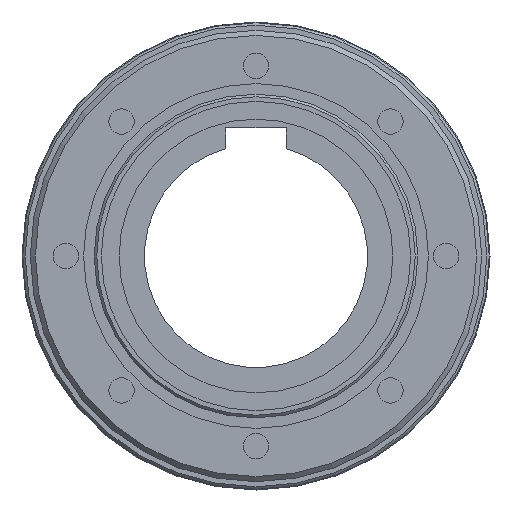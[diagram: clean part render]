
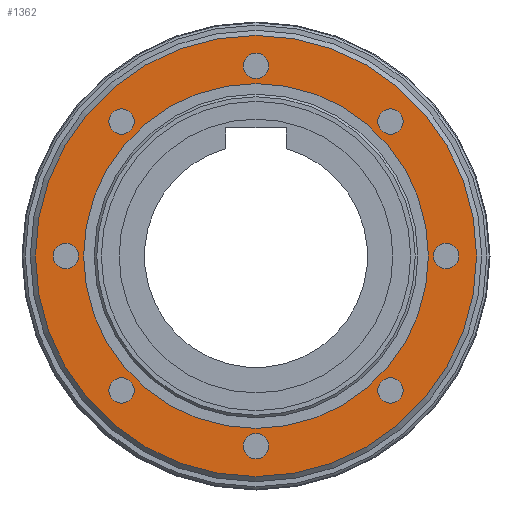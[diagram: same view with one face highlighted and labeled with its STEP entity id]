
A CAD part, left-side view. The second image highlights one B-rep face of the part: STEP entity #1362.
In plain terms, the highlighted planar face has unit normal (-1, 0, 0).
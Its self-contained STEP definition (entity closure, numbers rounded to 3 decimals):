
#24=FACE_BOUND('',#388,.T.);
#25=FACE_BOUND('',#389,.T.);
#26=FACE_BOUND('',#390,.T.);
#27=FACE_BOUND('',#391,.T.);
#28=FACE_BOUND('',#392,.T.);
#29=FACE_BOUND('',#393,.T.);
#30=FACE_BOUND('',#394,.T.);
#31=FACE_BOUND('',#395,.T.);
#32=FACE_BOUND('',#396,.T.);
#226=PLANE('',#1581);
#302=FACE_OUTER_BOUND('',#387,.T.);
#387=EDGE_LOOP('',(#1192,#1193));
#388=EDGE_LOOP('',(#1194,#1195));
#389=EDGE_LOOP('',(#1196,#1197));
#390=EDGE_LOOP('',(#1198,#1199));
#391=EDGE_LOOP('',(#1200,#1201));
#392=EDGE_LOOP('',(#1202,#1203));
#393=EDGE_LOOP('',(#1204,#1205));
#394=EDGE_LOOP('',(#1206,#1207));
#395=EDGE_LOOP('',(#1208,#1209));
#396=EDGE_LOOP('',(#1210,#1211));
#446=CIRCLE('',#1423,2.5);
#449=CIRCLE('',#1426,2.5);
#450=CIRCLE('',#1428,2.5);
#453=CIRCLE('',#1431,2.5);
#454=CIRCLE('',#1433,2.5);
#457=CIRCLE('',#1436,2.5);
#458=CIRCLE('',#1438,2.5);
#461=CIRCLE('',#1441,2.5);
#462=CIRCLE('',#1443,2.5);
#465=CIRCLE('',#1446,2.5);
#466=CIRCLE('',#1448,2.5);
#469=CIRCLE('',#1451,2.5);
#470=CIRCLE('',#1453,2.5);
#473=CIRCLE('',#1456,2.5);
#474=CIRCLE('',#1458,2.5);
#477=CIRCLE('',#1461,2.5);
#511=CIRCLE('',#1506,34.);
#514=CIRCLE('',#1509,34.);
#516=CIRCLE('',#1512,43.5);
#517=CIRCLE('',#1513,43.5);
#576=VERTEX_POINT('',#2133);
#577=VERTEX_POINT('',#2134);
#580=VERTEX_POINT('',#2143);
#581=VERTEX_POINT('',#2144);
#584=VERTEX_POINT('',#2153);
#585=VERTEX_POINT('',#2154);
#588=VERTEX_POINT('',#2163);
#589=VERTEX_POINT('',#2164);
#592=VERTEX_POINT('',#2173);
#593=VERTEX_POINT('',#2174);
#596=VERTEX_POINT('',#2183);
#597=VERTEX_POINT('',#2184);
#600=VERTEX_POINT('',#2193);
#601=VERTEX_POINT('',#2194);
#604=VERTEX_POINT('',#2203);
#605=VERTEX_POINT('',#2204);
#644=VERTEX_POINT('',#2342);
#645=VERTEX_POINT('',#2343);
#650=VERTEX_POINT('',#2355);
#651=VERTEX_POINT('',#2357);
#731=EDGE_CURVE('',#576,#577,#446,.T.);
#735=EDGE_CURVE('',#577,#576,#449,.T.);
#736=EDGE_CURVE('',#580,#581,#450,.T.);
#740=EDGE_CURVE('',#581,#580,#453,.T.);
#741=EDGE_CURVE('',#584,#585,#454,.T.);
#745=EDGE_CURVE('',#585,#584,#457,.T.);
#746=EDGE_CURVE('',#588,#589,#458,.T.);
#750=EDGE_CURVE('',#589,#588,#461,.T.);
#751=EDGE_CURVE('',#592,#593,#462,.T.);
#755=EDGE_CURVE('',#593,#592,#465,.T.);
#756=EDGE_CURVE('',#596,#597,#466,.T.);
#760=EDGE_CURVE('',#597,#596,#469,.T.);
#761=EDGE_CURVE('',#600,#601,#470,.T.);
#765=EDGE_CURVE('',#601,#600,#473,.T.);
#766=EDGE_CURVE('',#604,#605,#474,.T.);
#770=EDGE_CURVE('',#605,#604,#477,.T.);
#816=EDGE_CURVE('',#644,#645,#511,.T.);
#820=EDGE_CURVE('',#645,#644,#514,.T.);
#823=EDGE_CURVE('',#651,#650,#516,.T.);
#824=EDGE_CURVE('',#650,#651,#517,.T.);
#1192=ORIENTED_EDGE('',*,*,#823,.T.);
#1193=ORIENTED_EDGE('',*,*,#824,.T.);
#1194=ORIENTED_EDGE('',*,*,#731,.F.);
#1195=ORIENTED_EDGE('',*,*,#735,.F.);
#1196=ORIENTED_EDGE('',*,*,#736,.F.);
#1197=ORIENTED_EDGE('',*,*,#740,.F.);
#1198=ORIENTED_EDGE('',*,*,#741,.F.);
#1199=ORIENTED_EDGE('',*,*,#745,.F.);
#1200=ORIENTED_EDGE('',*,*,#746,.F.);
#1201=ORIENTED_EDGE('',*,*,#750,.F.);
#1202=ORIENTED_EDGE('',*,*,#751,.F.);
#1203=ORIENTED_EDGE('',*,*,#755,.F.);
#1204=ORIENTED_EDGE('',*,*,#756,.F.);
#1205=ORIENTED_EDGE('',*,*,#760,.F.);
#1206=ORIENTED_EDGE('',*,*,#761,.F.);
#1207=ORIENTED_EDGE('',*,*,#765,.F.);
#1208=ORIENTED_EDGE('',*,*,#766,.F.);
#1209=ORIENTED_EDGE('',*,*,#770,.F.);
#1210=ORIENTED_EDGE('',*,*,#816,.F.);
#1211=ORIENTED_EDGE('',*,*,#820,.F.);
#1362=ADVANCED_FACE('',(#302,#24,#25,#26,#27,#28,#29,#30,#31,#32),#226,
 .F.);
#1423=AXIS2_PLACEMENT_3D('',#2135,#1649,#1650);
#1426=AXIS2_PLACEMENT_3D('',#2141,#1656,#1657);
#1428=AXIS2_PLACEMENT_3D('',#2145,#1660,#1661);
#1431=AXIS2_PLACEMENT_3D('',#2151,#1667,#1668);
#1433=AXIS2_PLACEMENT_3D('',#2155,#1671,#1672);
#1436=AXIS2_PLACEMENT_3D('',#2161,#1678,#1679);
#1438=AXIS2_PLACEMENT_3D('',#2165,#1682,#1683);
#1441=AXIS2_PLACEMENT_3D('',#2171,#1689,#1690);
#1443=AXIS2_PLACEMENT_3D('',#2175,#1693,#1694);
#1446=AXIS2_PLACEMENT_3D('',#2181,#1700,#1701);
#1448=AXIS2_PLACEMENT_3D('',#2185,#1704,#1705);
#1451=AXIS2_PLACEMENT_3D('',#2191,#1711,#1712);
#1453=AXIS2_PLACEMENT_3D('',#2195,#1715,#1716);
#1456=AXIS2_PLACEMENT_3D('',#2201,#1722,#1723);
#1458=AXIS2_PLACEMENT_3D('',#2205,#1726,#1727);
#1461=AXIS2_PLACEMENT_3D('',#2211,#1733,#1734);
#1506=AXIS2_PLACEMENT_3D('',#2344,#1833,#1834);
#1509=AXIS2_PLACEMENT_3D('',#2350,#1840,#1841);
#1512=AXIS2_PLACEMENT_3D('',#2358,#1847,#1848);
#1513=AXIS2_PLACEMENT_3D('',#2359,#1849,#1850);
#1581=AXIS2_PLACEMENT_3D('',#2531,#2004,#2005);
#1649=DIRECTION('center_axis',(-1.,0.,0.));
#1650=DIRECTION('ref_axis',(0.,1.,0.));
#1656=DIRECTION('center_axis',(-1.,0.,0.));
#1657=DIRECTION('ref_axis',(0.,1.,0.));
#1660=DIRECTION('center_axis',(-1.,0.,0.));
#1661=DIRECTION('ref_axis',(0.,1.,0.));
#1667=DIRECTION('center_axis',(-1.,0.,0.));
#1668=DIRECTION('ref_axis',(0.,1.,0.));
#1671=DIRECTION('center_axis',(-1.,0.,0.));
#1672=DIRECTION('ref_axis',(0.,1.,0.));
#1678=DIRECTION('center_axis',(-1.,0.,0.));
#1679=DIRECTION('ref_axis',(0.,1.,0.));
#1682=DIRECTION('center_axis',(-1.,0.,0.));
#1683=DIRECTION('ref_axis',(0.,1.,0.));
#1689=DIRECTION('center_axis',(-1.,0.,0.));
#1690=DIRECTION('ref_axis',(0.,1.,0.));
#1693=DIRECTION('center_axis',(-1.,0.,0.));
#1694=DIRECTION('ref_axis',(0.,1.,0.));
#1700=DIRECTION('center_axis',(-1.,0.,0.));
#1701=DIRECTION('ref_axis',(0.,1.,0.));
#1704=DIRECTION('center_axis',(-1.,0.,0.));
#1705=DIRECTION('ref_axis',(0.,1.,0.));
#1711=DIRECTION('center_axis',(-1.,0.,0.));
#1712=DIRECTION('ref_axis',(0.,1.,0.));
#1715=DIRECTION('center_axis',(-1.,0.,0.));
#1716=DIRECTION('ref_axis',(0.,1.,0.));
#1722=DIRECTION('center_axis',(-1.,0.,0.));
#1723=DIRECTION('ref_axis',(0.,1.,0.));
#1726=DIRECTION('center_axis',(-1.,0.,0.));
#1727=DIRECTION('ref_axis',(0.,1.,0.));
#1733=DIRECTION('center_axis',(-1.,0.,0.));
#1734=DIRECTION('ref_axis',(0.,1.,0.));
#1833=DIRECTION('center_axis',(-1.,0.,0.));
#1834=DIRECTION('ref_axis',(0.,1.,0.));
#1840=DIRECTION('center_axis',(-1.,0.,0.));
#1841=DIRECTION('ref_axis',(0.,1.,0.));
#1847=DIRECTION('center_axis',(-1.,0.,0.));
#1848=DIRECTION('ref_axis',(0.,1.,0.));
#1849=DIRECTION('center_axis',(-1.,0.,0.));
#1850=DIRECTION('ref_axis',(0.,1.,0.));
#2004=DIRECTION('center_axis',(1.,0.,0.));
#2005=DIRECTION('ref_axis',(0.,0.,
-1.));
#2133=CARTESIAN_POINT('',(9.,-24.017,-26.517));
#2134=CARTESIAN_POINT('',(9.,-29.017,-26.517));
#2135=CARTESIAN_POINT('Origin',(9.,-26.517,-26.517));
#2141=CARTESIAN_POINT('Origin',(9.,-26.517,-26.517));
#2143=CARTESIAN_POINT('',(9.,-35.,0.));
#2144=CARTESIAN_POINT('',(9.,-40.,0.));
#2145=CARTESIAN_POINT('Origin',(9.,-37.5,0.));
#2151=CARTESIAN_POINT('Origin',(9.,-37.5,0.));
#2153=CARTESIAN_POINT('',(9.,-24.017,26.517));
#2154=CARTESIAN_POINT('',(9.,-29.017,26.517));
#2155=CARTESIAN_POINT('Origin',(9.,-26.517,26.517));
#2161=CARTESIAN_POINT('Origin',(9.,-26.517,26.517));
#2163=CARTESIAN_POINT('',(9.,2.5,37.5));
#2164=CARTESIAN_POINT('',(9.,-2.5,37.5));
#2165=CARTESIAN_POINT('Origin',(9.,0.,37.5));
#2171=CARTESIAN_POINT('Origin',(9.,0.,37.5));
#2173=CARTESIAN_POINT('',(9.,29.017,26.517));
#2174=CARTESIAN_POINT('',(9.,24.017,26.517));
#2175=CARTESIAN_POINT('Origin',(9.,26.517,26.517));
#2181=CARTESIAN_POINT('Origin',(9.,26.517,26.517));
#2183=CARTESIAN_POINT('',(9.,40.,0.));
#2184=CARTESIAN_POINT('',(9.,35.,0.));
#2185=CARTESIAN_POINT('Origin',(9.,37.5,0.));
#2191=CARTESIAN_POINT('Origin',(9.,37.5,0.));
#2193=CARTESIAN_POINT('',(9.,29.017,-26.517));
#2194=CARTESIAN_POINT('',(9.,24.017,-26.517));
#2195=CARTESIAN_POINT('Origin',(9.,26.517,-26.517));
#2201=CARTESIAN_POINT('Origin',(9.,26.517,-26.517));
#2203=CARTESIAN_POINT('',(9.,2.5,-37.5));
#2204=CARTESIAN_POINT('',(9.,-2.5,-37.5));
#2205=CARTESIAN_POINT('Origin',(9.,0.,
-37.5));
#2211=CARTESIAN_POINT('Origin',(9.,0.,
-37.5));
#2342=CARTESIAN_POINT('',(9.,34.,0.));
#2343=CARTESIAN_POINT('',(9.,-34.,0.));
#2344=CARTESIAN_POINT('Origin',(9.,0.,0.));
#2350=CARTESIAN_POINT('Origin',(9.,0.,0.));
#2355=CARTESIAN_POINT('',(9.,-43.5,0.));
#2357=CARTESIAN_POINT('',(9.,43.5,0.));
#2358=CARTESIAN_POINT('Origin',(9.,0.,0.));
#2359=CARTESIAN_POINT('Origin',(9.,0.,0.));
#2531=CARTESIAN_POINT('Origin',(9.,0.,29.209));
